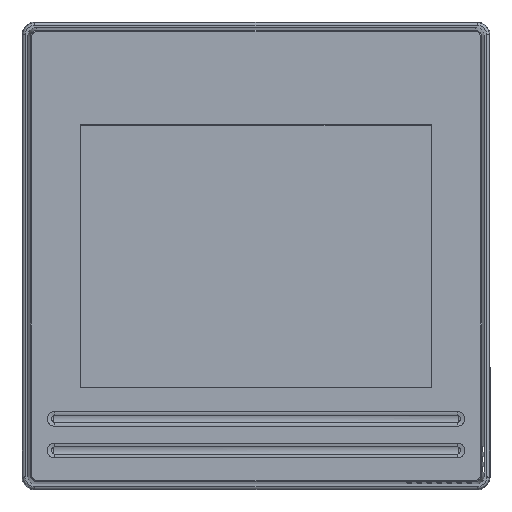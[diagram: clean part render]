
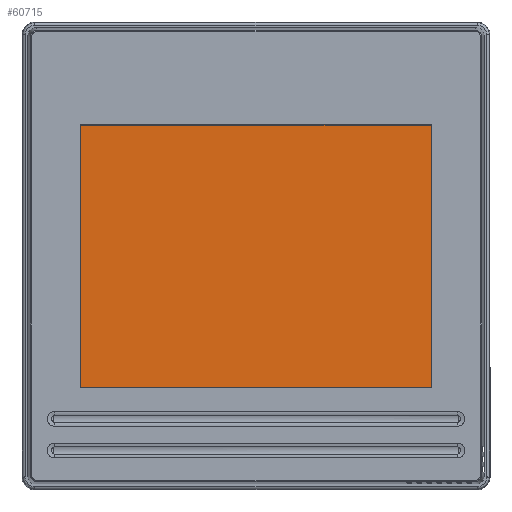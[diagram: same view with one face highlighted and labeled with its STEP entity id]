
A CAD part, top view. The second image highlights one B-rep face of the part: STEP entity #60715.
In plain terms, the highlighted planar face has unit normal (0, 0, 1).
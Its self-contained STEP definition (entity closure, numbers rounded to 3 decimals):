
#180 = VECTOR ( 'NONE', #18088, 1000. ) ;
#4606 = CARTESIAN_POINT ( 'NONE',  ( 0., 0., 4.299 ) ) ;
#5214 = EDGE_CURVE ( 'NONE', #21294, #34995, #66440, .T. ) ;
#6288 = CARTESIAN_POINT ( 'NONE',  ( 73.49, 60.78, 4.299 ) ) ;
#8014 = DIRECTION ( 'NONE',  ( -1., 0., 0. ) ) ;
#10012 = DIRECTION ( 'NONE',  ( 1., 0., 0. ) ) ;
#11250 = ORIENTED_EDGE ( 'NONE', *, *, #57100, .T. ) ;
#14549 = LINE ( 'NONE', #50541, #180 ) ;
#14573 = EDGE_LOOP ( 'NONE', ( #50041, #11250, #69708, #47706 ) ) ;
#15826 = DIRECTION ( 'NONE',  ( 1., 0., 0. ) ) ;
#16755 = CARTESIAN_POINT ( 'NONE',  ( 3.41, 60.78, 4.299 ) ) ;
#17116 = FACE_OUTER_BOUND ( 'NONE', #14573, .T. ) ;
#18088 = DIRECTION ( 'NONE',  ( 0., 1., 0. ) ) ;
#18744 = VECTOR ( 'NONE', #15826, 1000. ) ;
#21294 = VERTEX_POINT ( 'NONE', #6288 ) ;
#23450 = CARTESIAN_POINT ( 'NONE',  ( 3.41, 60.78, 4.299 ) ) ;
#26607 = VECTOR ( 'NONE', #8014, 1000. ) ;
#29818 = VERTEX_POINT ( 'NONE', #47190 ) ;
#34995 = VERTEX_POINT ( 'NONE', #16755 ) ;
#35050 = CARTESIAN_POINT ( 'NONE',  ( 3.41, 60.78, 4.299 ) ) ;
#39278 = CARTESIAN_POINT ( 'NONE',  ( 73.49, 8.22, 4.299 ) ) ;
#39772 = DIRECTION ( 'NONE',  ( 0., -1., 0. ) ) ;
#42506 = DIRECTION ( 'NONE',  ( 0., 0., 1. ) ) ;
#42790 = VERTEX_POINT ( 'NONE', #39278 ) ;
#42881 = LINE ( 'NONE', #23450, #57281 ) ;
#47190 = CARTESIAN_POINT ( 'NONE',  ( 3.41, 8.22, 4.299 ) ) ;
#47706 = ORIENTED_EDGE ( 'NONE', *, *, #5214, .T. ) ;
#50041 = ORIENTED_EDGE ( 'NONE', *, *, #55788, .T. ) ;
#50541 = CARTESIAN_POINT ( 'NONE',  ( 73.49, 60.78, 4.299 ) ) ;
#53178 = PLANE ( 'NONE',  #55793 ) ;
#53740 = CARTESIAN_POINT ( 'NONE',  ( 3.41, 8.22, 4.299 ) ) ;
#55788 = EDGE_CURVE ( 'NONE', #34995, #29818, #42881, .T. ) ;
#55793 = AXIS2_PLACEMENT_3D ( 'NONE', #4606, #42506, #10012 ) ;
#56788 = EDGE_CURVE ( 'NONE', #42790, #21294, #14549, .T. ) ;
#57100 = EDGE_CURVE ( 'NONE', #29818, #42790, #65400, .T. ) ;
#57281 = VECTOR ( 'NONE', #39772, 1000. ) ;
#60715 = ADVANCED_FACE ( 'NONE', ( #17116 ), #53178, .T. ) ;
#65400 = LINE ( 'NONE', #53740, #18744 ) ;
#66440 = LINE ( 'NONE', #35050, #26607 ) ;
#69708 = ORIENTED_EDGE ( 'NONE', *, *, #56788, .T. ) ;
